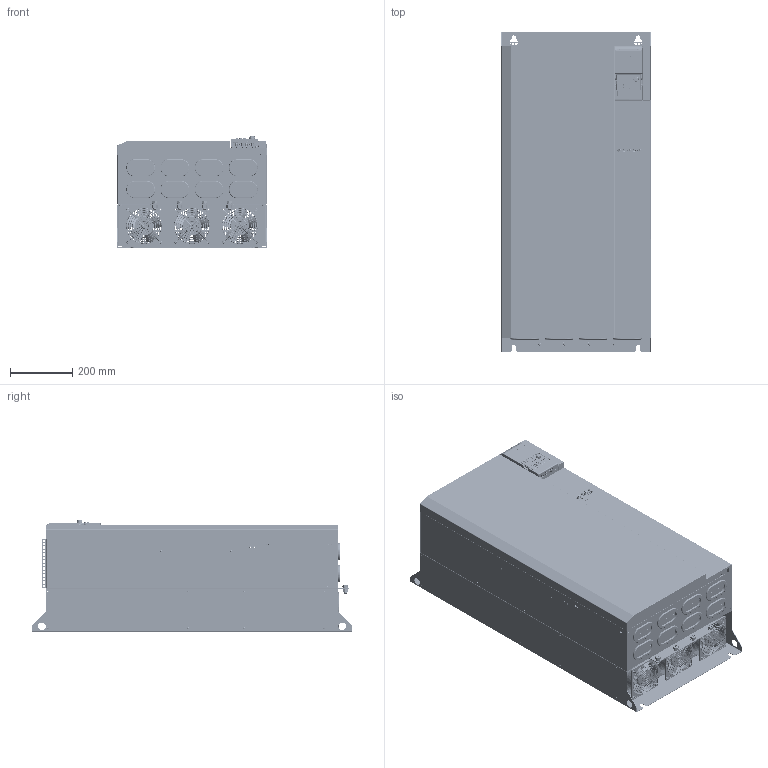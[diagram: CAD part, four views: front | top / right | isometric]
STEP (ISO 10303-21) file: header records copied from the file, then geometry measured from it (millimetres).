
FILE_DESCRIPTION((''),'2;1');
FILE_NAME('L_ASM','2018-03-21T',('zhi2xi'),(''),'PRO/ENGINEER BY PARAMETRIC TECHNOLOGY CORPORATION, 2009380','PRO/ENGINEER BY PARAMETRIC TECHNOLOGY CORPORATION, 2009380','');
FILE_SCHEMA(('CONFIG_CONTROL_DESIGN'));
Length unit declared in the file: millimetre
Products named in the file (261): MANIFOLD_SOLID_BREP_14969; MANIFOLD_SOLID_BREP_15174; MANIFOLD_SOLID_BREP_15379; MANIFOLD_SOLID_BREP_15584; MANIFOLD_SOLID_BREP_15789; MANIFOLD_SOLID_BREP_15994; MANIFOLD_SOLID_BREP_16199; MANIFOLD_SOLID_BREP_16456; MANIFOLD_SOLID_BREP_16713; MANIFOLD_SOLID_BREP_16970; MANIFOLD_SOLID_BREP_17227; MANIFOLD_SOLID_BREP_17432; MANIFOLD_SOLID_BREP_17637; MANIFOLD_SOLID_BREP_17842; MANIFOLD_SOLID_BREP_18047; MANIFOLD_SOLID_BREP_18252; MANIFOLD_SOLID_BREP_18457; MANIFOLD_SOLID_BREP_18662; MANIFOLD_SOLID_BREP_18867; MANIFOLD_SOLID_BREP_19072; MANIFOLD_SOLID_BREP_19329; MANIFOLD_SOLID_BREP_19586; MANIFOLD_SOLID_BREP_19843; MANIFOLD_SOLID_BREP_20100; MANIFOLD_SOLID_BREP_20357; MANIFOLD_SOLID_BREP_20614; MANIFOLD_SOLID_BREP_20871; MANIFOLD_SOLID_BREP_21128; MANIFOLD_SOLID_BREP_21385; MANIFOLD_SOLID_BREP_21642; MANIFOLD_SOLID_BREP_21899; MANIFOLD_SOLID_BREP_22156; MANIFOLD_SOLID_BREP_22413; MANIFOLD_SOLID_BREP_22670; MANIFOLD_SOLID_BREP_22927; MANIFOLD_SOLID_BREP_23184; MANIFOLD_SOLID_BREP_23441; MANIFOLD_SOLID_BREP_23698; MANIFOLD_SOLID_BREP_23955; MANIFOLD_SOLID_BREP_24212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
Assembly tree (338 placements, depth 6):
  L_ASM
    00_EFC5610_160KW_1_ASM
      HOLDER_SE5L_HEATSINK_A_1_ASM
        MANIFOLD_SOLID_BREP_14969
        MANIFOLD_SOLID_BREP_15174
        MANIFOLD_SOLID_BREP_15379
        MANIFOLD_SOLID_BREP_15584
        MANIFOLD_SOLID_BREP_15789
        MANIFOLD_SOLID_BREP_15994
        MANIFOLD_SOLID_BREP_16199
        MANIFOLD_SOLID_BREP_16456
        MANIFOLD_SOLID_BREP_16713
        MANIFOLD_SOLID_BREP_16970
        MANIFOLD_SOLID_BREP_17227
        MANIFOLD_SOLID_BREP_17432
        MANIFOLD_SOLID_BREP_17637
        MANIFOLD_SOLID_BREP_17842
        MANIFOLD_SOLID_BREP_18047
        MANIFOLD_SOLID_BREP_18252
        MANIFOLD_SOLID_BREP_18457
        MANIFOLD_SOLID_BREP_18662
        MANIFOLD_SOLID_BREP_18867
        MANIFOLD_SOLID_BREP_19072
        MANIFOLD_SOLID_BREP_19329
        MANIFOLD_SOLID_BREP_19586
        MANIFOLD_SOLID_BREP_19843
        MANIFOLD_SOLID_BREP_20100
        MANIFOLD_SOLID_BREP_20357
        MANIFOLD_SOLID_BREP_20614
        MANIFOLD_SOLID_BREP_20871
        MANIFOLD_SOLID_BREP_21128
        MANIFOLD_SOLID_BREP_21385
        MANIFOLD_SOLID_BREP_21642
        MANIFOLD_SOLID_BREP_21899
        MANIFOLD_SOLID_BREP_22156
        MANIFOLD_SOLID_BREP_22413
        MANIFOLD_SOLID_BREP_22670
        MANIFOLD_SOLID_BREP_22927
        MANIFOLD_SOLID_BREP_23184
        MANIFOLD_SOLID_BREP_23441
        MANIFOLD_SOLID_BREP_23698
        MANIFOLD_SOLID_BREP_23955
        MANIFOLD_SOLID_BREP_24212
        MANIFOLD_SOLID_BREP_24469
        MANIFOLD_SOLID_BREP_24726
        MANIFOLD_SOLID_BREP_24983
        MANIFOLD_SOLID_BREP_25240
        MANIFOLD_SOLID_BREP_25497
        MANIFOLD_SOLID_BREP_25754
        MANIFOLD_SOLID_BREP_26011
        MANIFOLD_SOLID_BREP_26268
        MANIFOLD_SOLID_BREP_26525
        MANIFOLD_SOLID_BREP_26782
        MANIFOLD_SOLID_BREP_27039
        MANIFOLD_SOLID_BREP_27296
        MANIFOLD_SOLID_BREP_27553
        MANIFOLD_SOLID_BREP_27810
        MANIFOLD_SOLID_BREP_28067
        MANIFOLD_SOLID_BREP_28324
        MANIFOLD_SOLID_BREP_28581
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Bounding box: 482.2 x 1030 x 360.05 mm (x, y, z)
Volume: 5037787.7 mm3; surface area: 5470982.6 mm2
Topology: 330 solids, 336 shells, 17845 faces, 46963 edges, 30003 vertices
Faces by surface type: plane 9399, cylinder 5795, bspline 1143, torus 764, cone 451, sphere 163, extrusion 130
Entity records: 554773 total; most frequent: CARTESIAN_POINT 137512, ORIENTED_EDGE 67380, DIRECTION 67205, EDGE_CURVE 33690, PRESENTATION_STYLE_ASSIGNMENT 26281, STYLED_ITEM 25650, CURVE_STYLE 24820, AXIS2_PLACEMENT_3D 22478
